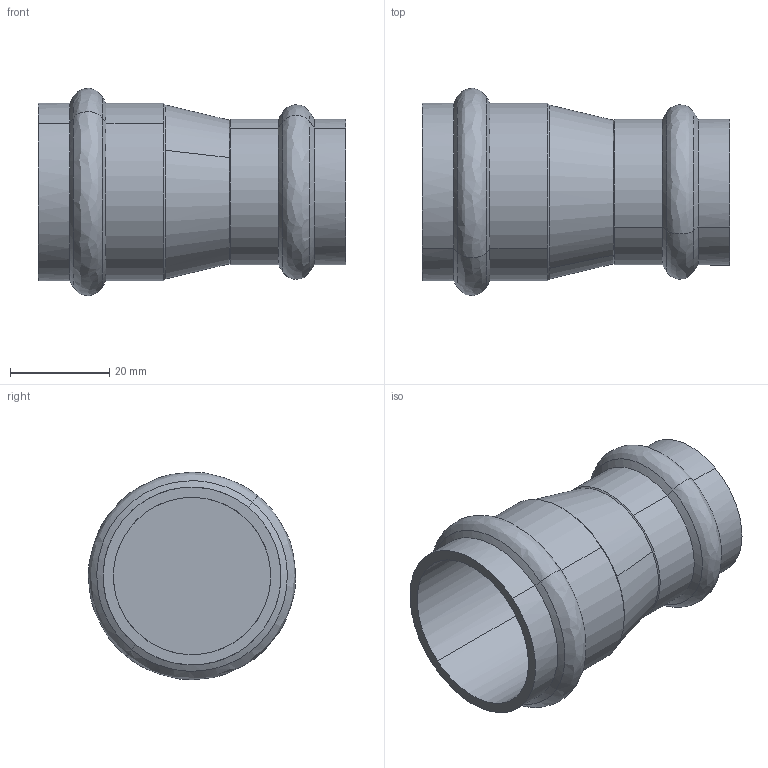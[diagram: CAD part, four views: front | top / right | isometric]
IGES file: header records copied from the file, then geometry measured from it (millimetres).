
Start section: 3D InterOp IGES (Version 25 0 1), Spatial Corp. Copyright (c) 1999-2007.
Global section: file name: pim0004379.igs; native system: Spatial Corp.; preprocessor: 3D InterOp ACIS/IGES; author: Cad-Pim; organization: TransMagic, Inc.; date: 20150430.131825; units: millimetre
Bounding box: 62 x 41.79 x 41.8 mm (x, y, z)
Volume: 24145.9 mm3; surface area: 13204.7 mm2
Topology: 1 solids, 1 shells, 34 faces, 88 edges, 58 vertices
Faces by surface type: cylinder 12, cone 12, bspline 10
